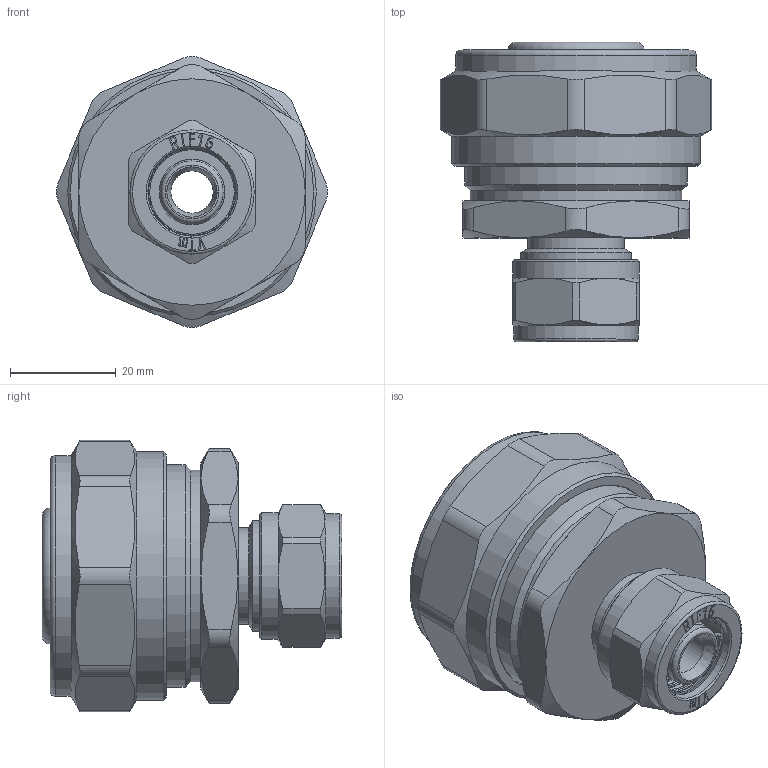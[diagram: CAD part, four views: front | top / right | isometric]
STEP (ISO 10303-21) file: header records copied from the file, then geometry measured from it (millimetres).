
FILE_DESCRIPTION(('STEP AP203'), '1');
FILE_NAME('VTm.303.N.003216', '', ('UNSPECIFIED'), ('UNSPECIFIED'), 'C3D Converter', 'C3D Toolkit', '');
FILE_SCHEMA(('CONFIG_CONTROL_DESIGN'));
Length unit declared in the file: millimetre
Products named in the file (1): ВР.302634.074.000 СБ
Bounding box: 51.3 x 56.61 x 51.3 mm (x, y, z)
Volume: 45269 mm3; surface area: 25041.8 mm2
Topology: 2 solids, 2 shells, 599 faces, 1606 edges, 1054 vertices
Faces by surface type: extrusion 240, plane 188, cylinder 72, torus 56, cone 43
Full cylindrical faces by diameter (mm): 8 x1, 11.75 x4, 12.4 x1, 16.2 x1, 16.7 x1, 18.2 x1, 18.632 x1, 20 x1, 20.955 x1, 22.8 x4, 23.5 x1, 24 x1, 25.75 x5, 26 x1, 32.1 x1, 32.2 x1, 32.7 x1, 40 x1, 40.376 x1, 42 x1, 45.5 x1, 47 x1
Entity records: 22443 total; most frequent: CARTESIAN_POINT 8991, ORIENTED_EDGE 3044, DIRECTION 1995, EDGE_CURVE 1522, VERTEX_POINT 1051, B_SPLINE_CURVE_WITH_KNOTS 885, VECTOR 873, EDGE_LOOP 719
